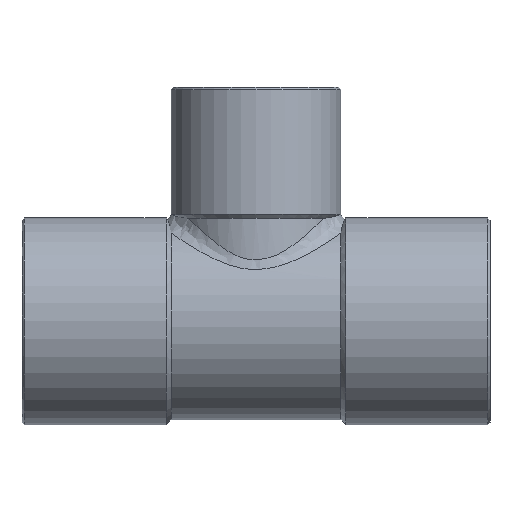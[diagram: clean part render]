
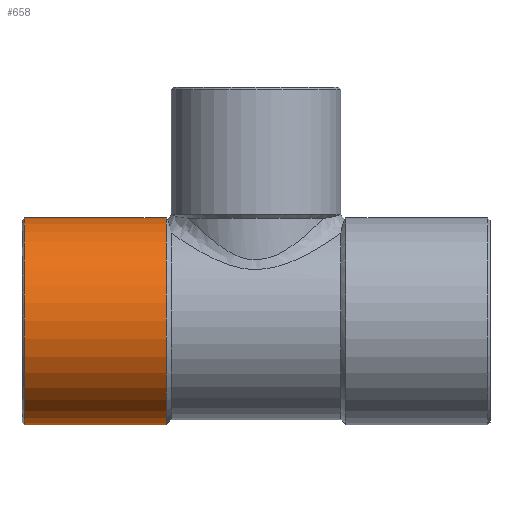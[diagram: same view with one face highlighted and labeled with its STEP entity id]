
A CAD part, top view. The second image highlights one B-rep face of the part: STEP entity #658.
In plain terms, the highlighted cylindrical face has radius 8.4 mm (diameter 16.8 mm), a partial arc.
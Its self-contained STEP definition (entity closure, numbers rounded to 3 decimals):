
#49=CARTESIAN_POINT('',(-7.3,8.4,0.0));
#50=VERTEX_POINT('',#49);
#59=CARTESIAN_POINT('',(-7.3,-8.4,0.));
#60=VERTEX_POINT('',#59);
#61=CARTESIAN_POINT('',(-7.3,0.0,0.0));
#62=DIRECTION('',(1.0,0.0,0.0));
#63=DIRECTION('',(0.0,1.0,0.0));
#64=AXIS2_PLACEMENT_3D('',#61,#62,#63);
#65=CIRCLE('',#64,8.4);
#66=EDGE_CURVE('',#50,#60,#65,.T.);
#627=CARTESIAN_POINT('',(-13.15,0.0,0.0));
#628=DIRECTION('',(1.0,0.0,0.0));
#629=DIRECTION('',(0.0,1.0,0.0));
#630=AXIS2_PLACEMENT_3D('',#627,#628,#629);
#631=CYLINDRICAL_SURFACE('',#630,8.4);
#632=CARTESIAN_POINT('',(-18.8,8.4,0.));
#633=VERTEX_POINT('',#632);
#634=CARTESIAN_POINT('',(-18.8,8.4,0.));
#635=DIRECTION('',(1.0,0.0,0.0));
#636=VECTOR('',#635,11.5);
#637=LINE('',#634,#636);
#638=EDGE_CURVE('',#633,#50,#637,.T.);
#639=ORIENTED_EDGE('',*,*,#638,.F.);
#640=CARTESIAN_POINT('',(-18.8,-8.4,0.));
#641=VERTEX_POINT('',#640);
#642=CARTESIAN_POINT('',(-18.8,0.0,0.0));
#643=DIRECTION('',(-1.0,0.0,0.0));
#644=DIRECTION('',(0.0,-1.0,0.0));
#645=AXIS2_PLACEMENT_3D('',#642,#643,#644);
#646=CIRCLE('',#645,8.4);
#647=EDGE_CURVE('',#641,#633,#646,.T.);
#648=ORIENTED_EDGE('',*,*,#647,.F.);
#649=CARTESIAN_POINT('',(-7.3,-8.4,0.));
#650=DIRECTION('',(-1.0,0.0,0.0));
#651=VECTOR('',#650,11.5);
#652=LINE('',#649,#651);
#653=EDGE_CURVE('',#60,#641,#652,.T.);
#654=ORIENTED_EDGE('',*,*,#653,.F.);
#655=ORIENTED_EDGE('',*,*,#66,.F.);
#656=EDGE_LOOP('',(#639,#648,#654,#655));
#657=FACE_OUTER_BOUND('',#656,.T.);
#658=ADVANCED_FACE('',(#657),#631,.T.);
